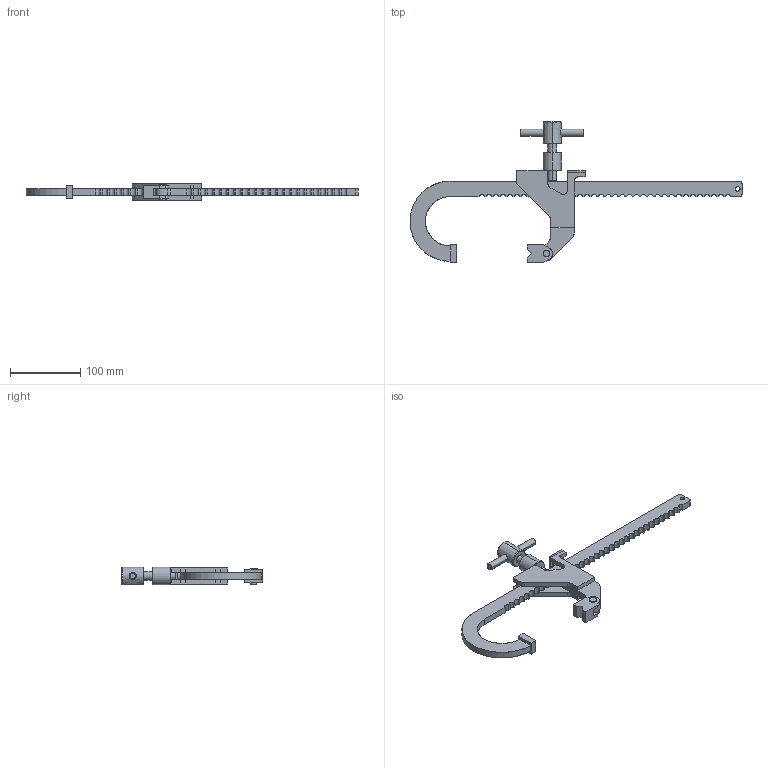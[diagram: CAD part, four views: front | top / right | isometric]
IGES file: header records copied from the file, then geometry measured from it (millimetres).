
Start section: SolidWorks IGES file using analytic representation for surfaces
Global section: file name: C:\Projetos\Grampos\Sargento\KFS-300\KFS-300.IGS; native system: SolidWorks 2012; preprocessor: SolidWorks 2012; author: Ricardo; date: 120905.090007; units: millimetre
Bounding box: 472 x 200.7 x 25.4 mm (x, y, z)
Surface area: 86395.6 mm2 (no closed solid volume)
Topology: 0 solids, 0 shells, 232 faces, 3582 edges, 3582 vertices
Faces by surface type: bspline 128, revolution 104
